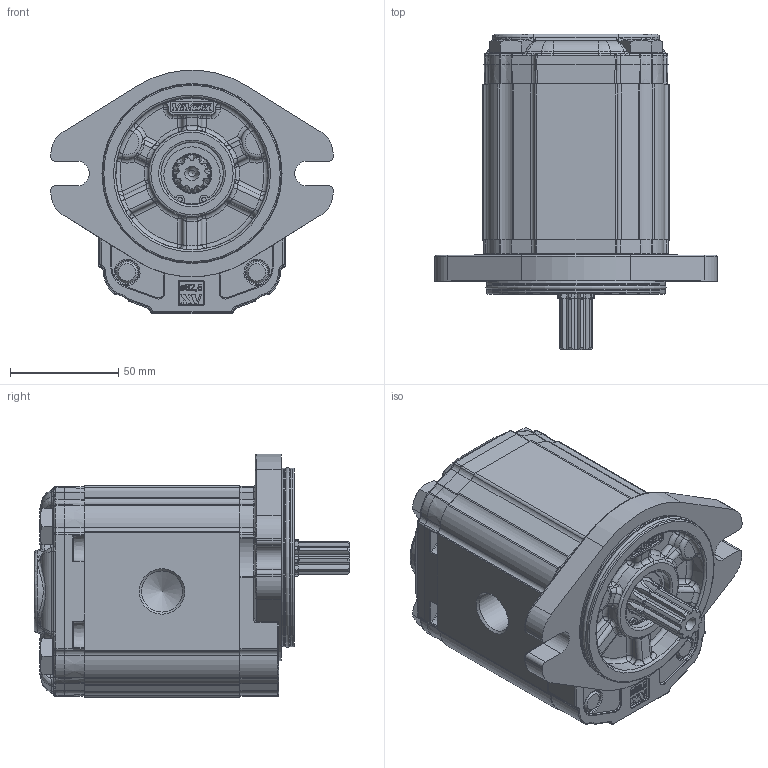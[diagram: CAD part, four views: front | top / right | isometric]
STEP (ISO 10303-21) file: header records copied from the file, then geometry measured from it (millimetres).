
FILE_DESCRIPTION(/* description */ ('Unknown'),/* implementation_level */ '2;1');
FILE_NAME(/* name */ 'X2U5352ICBA',/* time_stamp */ '2021-04-26T09:21:50+02:00',/* author */ ('Unknown'),/* organization */ ('Unknown'),/* preprocessor_version */ 'ST-DEVELOPER v16.7',/* originating_system */ 'Solid Edge',/* authorisation */ 'Unknown');
FILE_SCHEMA (('CONFIG_CONTROL_DESIGN','AUTOMOTIVE_DESIGN {1 0 10303 214 3 1 1}'));
Products named in the file (5): X2U5352ICBA; X2U52; 2I; X2CBH72; XU219-A
Assembly tree (4 placements, depth 2):
  X2U5352ICBA
    X2U52
    2I
    X2CBH72
    XU219-A
Bounding box: 130.38 x 145.7 x 112.3 mm (x, y, z)
Volume: 863983.8 mm3; surface area: 111356.4 mm2
Topology: 4 solids, 5 shells, 2202 faces, 5434 edges, 3297 vertices
Faces by surface type: cylinder 648, plane 590, bspline 537, torus 285, cone 104, sphere 38
Full cylindrical faces by diameter (mm): 2 x2, 10 x4, 10.5 x4, 11 x2, 16 x4, 17.42 x1, 18 x1, 19 x1, 20.595 x1, 23.332 x1, 24.117 x1, 25.834 x1, 28.5 x1, 28.56 x1, 28.57 x1, 28.8 x1, 30.4 x1, 79.6 x2, 82.5 x2
Entity records: 92173 total; most frequent: CARTESIAN_POINT 30187, ORIENTED_EDGE 10492, DIRECTION 8845, EDGE_CURVE 5246, AXIS2_PLACEMENT_3D 3377, VERTEX_POINT 3235, FACE_BOUND 2391, EDGE_LOOP 2388
